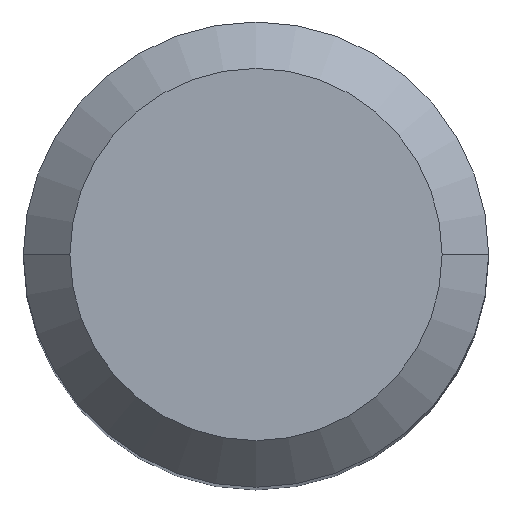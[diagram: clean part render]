
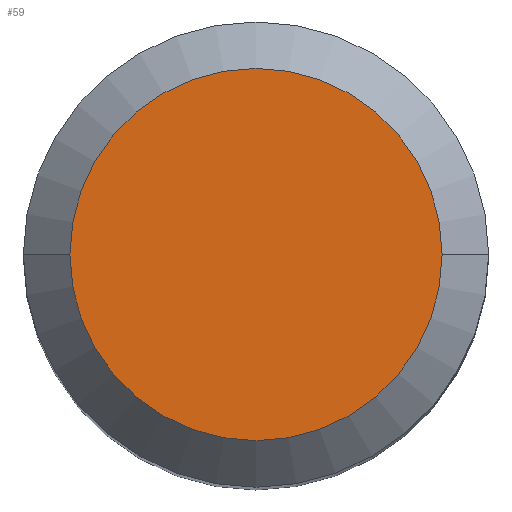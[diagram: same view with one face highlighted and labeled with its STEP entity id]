
A CAD part, top view. The second image highlights one B-rep face of the part: STEP entity #59.
In plain terms, the highlighted planar face has unit normal (0, 0, 1).
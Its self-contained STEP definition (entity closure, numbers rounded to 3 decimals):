
#37=DIRECTION('Axis2P3D Direction',(0.,0.,1.)) ;
#38=DIRECTION('Axis2P3D XDirection',(1.,0.,0.)) ;
#42=DIRECTION('Axis2P3D Direction',(0.,0.,1.)) ;
#51=DIRECTION('Axis2P3D Direction',(0.,0.,1.)) ;
#36=CARTESIAN_POINT('Axis2P3D Location',(0.,0.,18.)) ;
#41=CARTESIAN_POINT('Axis2P3D Location',(0.,0.,18.)) ;
#45=CARTESIAN_POINT('Vertex',(-2.,0.,18.)) ;
#47=CARTESIAN_POINT('Vertex',(2.,0.,18.)) ;
#50=CARTESIAN_POINT('Axis2P3D Location',(0.,0.,18.)) ;
#39=AXIS2_PLACEMENT_3D('Plane Axis2P3D',#36,#37,#38) ;
#43=AXIS2_PLACEMENT_3D('Circle Axis2P3D',#41,#42,$) ;
#52=AXIS2_PLACEMENT_3D('Circle Axis2P3D',#50,#51,$) ;
#49=EDGE_CURVE('',#46,#48,#44,.T.) ;
#54=EDGE_CURVE('',#48,#46,#53,.T.) ;
#40=PLANE('Plane',#39) ;
#56=ORIENTED_EDGE('',*,*,#49,.T.) ;
#57=ORIENTED_EDGE('',*,*,#54,.T.) ;
#59=ADVANCED_FACE('\X2\96F64EF651E04F554F53\X0\',(#58),#40,.T.) ;
#44=CIRCLE('generated circle',#43,2.) ;
#53=CIRCLE('generated circle',#52,2.) ;
#46=VERTEX_POINT('',#45) ;
#48=VERTEX_POINT('',#47) ;
#55=EDGE_LOOP('',(#56,#57)) ;
#58=FACE_OUTER_BOUND('',#55,.T.) ;
